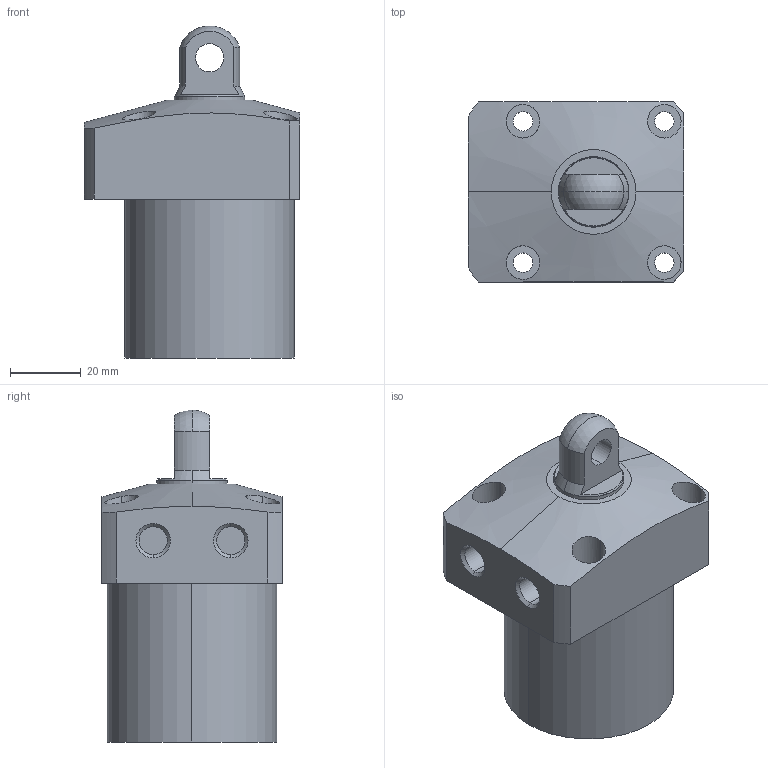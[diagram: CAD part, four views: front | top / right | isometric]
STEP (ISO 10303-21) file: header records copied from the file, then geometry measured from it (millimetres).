
FILE_DESCRIPTION (( 'STEP AP203' ), '1' );
FILE_NAME ('CLL-0480-CP-035.STEP', '2017-05-09T02:44:31', ( '' ), ( '' ), 'SwSTEP 2.0', 'SolidWorks 2015', '' );
FILE_SCHEMA (( 'CONFIG_CONTROL_DESIGN' ));
Length unit declared in the file: millimetre
Products named in the file (1): CLL-0480-CP-035
Bounding box: 61 x 51 x 94 mm (x, y, z)
Volume: 157100.5 mm3; surface area: 21473.8 mm2
Topology: 1 solids, 1 shells, 67 faces, 157 edges, 103 vertices
Faces by surface type: cylinder 35, plane 22, cone 8, sphere 2
Entity records: 2360 total; most frequent: CARTESIAN_POINT 682, DIRECTION 351, ORIENTED_EDGE 314, EDGE_CURVE 157, AXIS2_PLACEMENT_3D 146, VERTEX_POINT 103, EDGE_LOOP 88, CIRCLE 78
